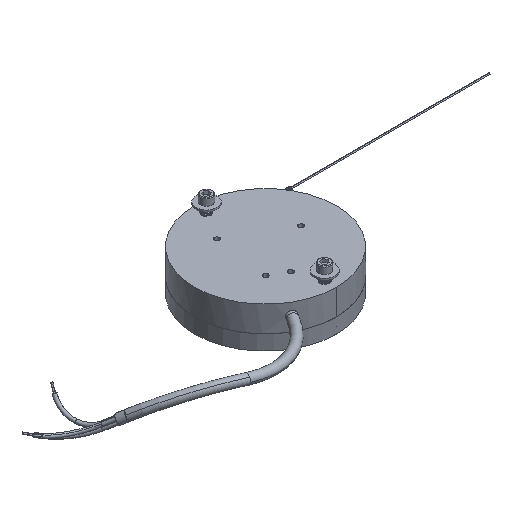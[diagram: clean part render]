
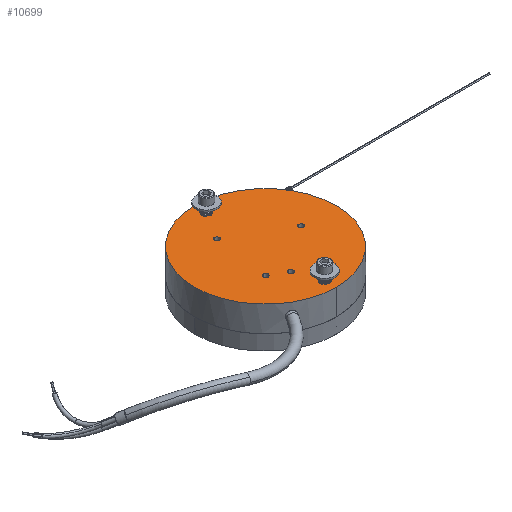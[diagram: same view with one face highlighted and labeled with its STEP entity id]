
A CAD part, isometric view. The second image highlights one B-rep face of the part: STEP entity #10699.
In plain terms, the highlighted planar face has unit normal (0, 0, -1).
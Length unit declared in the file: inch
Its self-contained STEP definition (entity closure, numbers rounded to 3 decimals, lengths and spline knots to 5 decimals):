
#79 = AXIS2_PLACEMENT_3D ( 'NONE', #2762, #2747, #2744 ) ;
#712 = VERTEX_POINT ( 'NONE', #2943 ) ;
#788 = CARTESIAN_POINT ( 'NONE',  ( 0., -0.65615, 0.31 ) ) ;
#843 = CIRCLE ( 'NONE', #1347, 0.05585 ) ;
#919 = AXIS2_PLACEMENT_3D ( 'NONE', #1090, #1087, #1061 ) ;
#922 = AXIS2_PLACEMENT_3D ( 'NONE', #1159, #1137, #1121 ) ;
#988 = AXIS2_PLACEMENT_3D ( 'NONE', #1937, #1927, #1888 ) ;
#995 = DIRECTION ( 'NONE',  ( 0., -1., 0. ) ) ;
#1006 = DIRECTION ( 'NONE',  ( 0., 0., 1. ) ) ;
#1011 = CIRCLE ( 'NONE', #4380, 0.05585 ) ;
#1020 = CARTESIAN_POINT ( 'NONE',  ( 0., -0.712, 0.31 ) ) ;
#1048 = DIRECTION ( 'NONE',  ( 0., 1., 0. ) ) ;
#1061 = DIRECTION ( 'NONE',  ( 0., 1., 0. ) ) ;
#1087 = DIRECTION ( 'NONE',  ( 0., 0., 1. ) ) ;
#1090 = CARTESIAN_POINT ( 'NONE',  ( -0.214, 0.371, 0.31 ) ) ;
#1121 = DIRECTION ( 'NONE',  ( 0., 1., 0. ) ) ;
#1137 = DIRECTION ( 'NONE',  ( 0., 0., 1. ) ) ;
#1159 = CARTESIAN_POINT ( 'NONE',  ( 0.428, 0., 0.31 ) ) ;
#1213 = ORIENTED_EDGE ( 'NONE', *, *, #6685, .T. ) ;
#1347 = AXIS2_PLACEMENT_3D ( 'NONE', #12795, #12775, #12685 ) ;
#1355 = CARTESIAN_POINT ( 'NONE',  ( -0.214, 0.371, 0.31 ) ) ;
#1601 = CARTESIAN_POINT ( 'NONE',  ( -0.111, -0.383, 0.31 ) ) ;
#1814 = EDGE_LOOP ( 'NONE', ( #8406, #3586 ) ) ;
#1888 = DIRECTION ( 'NONE',  ( 0., 1., 0. ) ) ;
#1927 = DIRECTION ( 'NONE',  ( 0., 0., -1. ) ) ;
#1937 = CARTESIAN_POINT ( 'NONE',  ( 0., 0., 0.31 ) ) ;
#2079 = CIRCLE ( 'NONE', #11310, 0.8525 ) ;
#2116 = ORIENTED_EDGE ( 'NONE', *, *, #14583, .T. ) ;
#2199 = CARTESIAN_POINT ( 'NONE',  ( -0.214, 0.401, 0.31 ) ) ;
#2239 = AXIS2_PLACEMENT_3D ( 'NONE', #1020, #1006, #995 ) ;
#2500 = ORIENTED_EDGE ( 'NONE', *, *, #8502, .T. ) ;
#2675 = VERTEX_POINT ( 'NONE', #10109 ) ;
#2705 = CIRCLE ( 'NONE', #12116, 0.03 ) ;
#2744 = DIRECTION ( 'NONE',  ( 0., 1., 0. ) ) ;
#2747 = DIRECTION ( 'NONE',  ( 0., 0., 1. ) ) ;
#2762 = CARTESIAN_POINT ( 'NONE',  ( 0.428, 0., 0.31 ) ) ;
#2876 = AXIS2_PLACEMENT_3D ( 'NONE', #1355, #6626, #1048 ) ;
#2943 = CARTESIAN_POINT ( 'NONE',  ( -0.302, -0.272, 0.31 ) ) ;
#3145 = EDGE_CURVE ( 'NONE', #13968, #12943, #9449, .T. ) ;
#3300 = VERTEX_POINT ( 'NONE', #15258 ) ;
#3372 = VERTEX_POINT ( 'NONE', #8351 ) ;
#3418 = CARTESIAN_POINT ( 'NONE',  ( -0.111, -0.443, 0.31 ) ) ;
#3586 = ORIENTED_EDGE ( 'NONE', *, *, #6535, .T. ) ;
#4009 = EDGE_LOOP ( 'NONE', ( #1213, #15017 ) ) ;
#4122 = DIRECTION ( 'NONE',  ( 0., 1., 0. ) ) ;
#4128 = VERTEX_POINT ( 'NONE', #7705 ) ;
#4144 = DIRECTION ( 'NONE',  ( 0., 0., -1. ) ) ;
#4145 = CARTESIAN_POINT ( 'NONE',  ( 0., 0., 0.31 ) ) ;
#4380 = AXIS2_PLACEMENT_3D ( 'NONE', #8223, #8182, #8110 ) ;
#5052 = ORIENTED_EDGE ( 'NONE', *, *, #8447, .T. ) ;
#5356 = CIRCLE ( 'NONE', #14653, 0.03 ) ;
#5534 = DIRECTION ( 'NONE',  ( 0., 1., 0. ) ) ;
#5563 = DIRECTION ( 'NONE',  ( 0., 0., 1. ) ) ;
#5579 = CARTESIAN_POINT ( 'NONE',  ( -0.302, -0.302, 0.31 ) ) ;
#6260 = EDGE_CURVE ( 'NONE', #4128, #16314, #843, .T. ) ;
#6464 = EDGE_LOOP ( 'NONE', ( #5052, #14962 ) ) ;
#6483 = EDGE_CURVE ( 'NONE', #8605, #11004, #2079, .T. ) ;
#6535 = EDGE_CURVE ( 'NONE', #3372, #8996, #7494, .T. ) ;
#6607 = EDGE_CURVE ( 'NONE', #11004, #8605, #7329, .T. ) ;
#6626 = DIRECTION ( 'NONE',  ( 0., 0., 1. ) ) ;
#6683 = EDGE_CURVE ( 'NONE', #8996, #3372, #13831, .T. ) ;
#6685 = EDGE_CURVE ( 'NONE', #12943, #13968, #13329, .T. ) ;
#6703 = EDGE_CURVE ( 'NONE', #10510, #2675, #6752, .T. ) ;
#6752 = CIRCLE ( 'NONE', #2239, 0.05585 ) ;
#6955 = DIRECTION ( 'NONE',  ( 0., 1., 0. ) ) ;
#6984 = EDGE_LOOP ( 'NONE', ( #2500, #11705 ) ) ;
#7009 = DIRECTION ( 'NONE',  ( 0., 0., 1. ) ) ;
#7072 = CARTESIAN_POINT ( 'NONE',  ( -0.111, -0.413, 0.31 ) ) ;
#7304 = FACE_BOUND ( 'NONE', #4009, .T. ) ;
#7323 = ORIENTED_EDGE ( 'NONE', *, *, #6483, .T. ) ;
#7329 = CIRCLE ( 'NONE', #988, 0.8525 ) ;
#7366 = CARTESIAN_POINT ( 'NONE',  ( 0., 0.8525, 0.31 ) ) ;
#7494 = CIRCLE ( 'NONE', #79, 0.03 ) ;
#7557 = FACE_OUTER_BOUND ( 'NONE', #10039, .T. ) ;
#7705 = CARTESIAN_POINT ( 'NONE',  ( 0., 0.65615, 0.31 ) ) ;
#7719 = AXIS2_PLACEMENT_3D ( 'NONE', #14435, #14422, #14418 ) ;
#8110 = DIRECTION ( 'NONE',  ( 0., -1., 0. ) ) ;
#8182 = DIRECTION ( 'NONE',  ( 0., 0., 1. ) ) ;
#8223 = CARTESIAN_POINT ( 'NONE',  ( 0., 0.712, 0.31 ) ) ;
#8351 = CARTESIAN_POINT ( 'NONE',  ( 0.428, -0.03, 0.31 ) ) ;
#8406 = ORIENTED_EDGE ( 'NONE', *, *, #6683, .T. ) ;
#8447 = EDGE_CURVE ( 'NONE', #15530, #15420, #5356, .T. ) ;
#8451 = EDGE_CURVE ( 'NONE', #712, #3300, #9863, .T. ) ;
#8502 = EDGE_CURVE ( 'NONE', #2675, #10510, #11835, .T. ) ;
#8605 = VERTEX_POINT ( 'NONE', #7366 ) ;
#8688 = EDGE_CURVE ( 'NONE', #3300, #712, #10333, .T. ) ;
#8996 = VERTEX_POINT ( 'NONE', #11589 ) ;
#9274 = EDGE_CURVE ( 'NONE', #15420, #15530, #2705, .T. ) ;
#9424 = ORIENTED_EDGE ( 'NONE', *, *, #8688, .T. ) ;
#9449 = CIRCLE ( 'NONE', #2876, 0.03 ) ;
#9723 = DIRECTION ( 'NONE',  ( 0., -1., 0. ) ) ;
#9771 = DIRECTION ( 'NONE',  ( 0., 0., 1. ) ) ;
#9794 = CARTESIAN_POINT ( 'NONE',  ( 0., -0.712, 0.31 ) ) ;
#9863 = CIRCLE ( 'NONE', #14608, 0.03 ) ;
#10039 = EDGE_LOOP ( 'NONE', ( #7323, #10989 ) ) ;
#10109 = CARTESIAN_POINT ( 'NONE',  ( 0., -0.76785, 0.31 ) ) ;
#10333 = CIRCLE ( 'NONE', #13822, 0.03 ) ;
#10510 = VERTEX_POINT ( 'NONE', #788 ) ;
#10699 = ADVANCED_FACE ( 'NONE', ( #7557, #15608, #13735, #13759, #7304, #14762, #14815 ), #14593, .T. ) ;
#10729 = DIRECTION ( 'NONE',  ( 0., 1., 0. ) ) ;
#10746 = DIRECTION ( 'NONE',  ( 0., 0., 1. ) ) ;
#10770 = CARTESIAN_POINT ( 'NONE',  ( -0.302, -0.302, 0.31 ) ) ;
#10838 = DIRECTION ( 'NONE',  ( 0., 1., 0. ) ) ;
#10871 = EDGE_LOOP ( 'NONE', ( #14838, #9424 ) ) ;
#10873 = DIRECTION ( 'NONE',  ( 0., 0., 1. ) ) ;
#10894 = CARTESIAN_POINT ( 'NONE',  ( -0.111, -0.413, 0.31 ) ) ;
#10989 = ORIENTED_EDGE ( 'NONE', *, *, #6607, .T. ) ;
#11004 = VERTEX_POINT ( 'NONE', #14175 ) ;
#11276 = EDGE_LOOP ( 'NONE', ( #15726, #2116 ) ) ;
#11310 = AXIS2_PLACEMENT_3D ( 'NONE', #4145, #4144, #4122 ) ;
#11589 = CARTESIAN_POINT ( 'NONE',  ( 0.428, 0.03, 0.31 ) ) ;
#11705 = ORIENTED_EDGE ( 'NONE', *, *, #6703, .T. ) ;
#11835 = CIRCLE ( 'NONE', #14605, 0.05585 ) ;
#12116 = AXIS2_PLACEMENT_3D ( 'NONE', #7072, #7009, #6955 ) ;
#12685 = DIRECTION ( 'NONE',  ( 0., -1., 0. ) ) ;
#12775 = DIRECTION ( 'NONE',  ( 0., 0., 1. ) ) ;
#12795 = CARTESIAN_POINT ( 'NONE',  ( 0., 0.712, 0.31 ) ) ;
#12943 = VERTEX_POINT ( 'NONE', #2199 ) ;
#13329 = CIRCLE ( 'NONE', #919, 0.03 ) ;
#13382 = CARTESIAN_POINT ( 'NONE',  ( 0., 0.76785, 0.31 ) ) ;
#13735 = FACE_BOUND ( 'NONE', #6464, .T. ) ;
#13737 = CARTESIAN_POINT ( 'NONE',  ( -0.214, 0.341, 0.31 ) ) ;
#13759 = FACE_BOUND ( 'NONE', #10871, .T. ) ;
#13822 = AXIS2_PLACEMENT_3D ( 'NONE', #5579, #5563, #5534 ) ;
#13831 = CIRCLE ( 'NONE', #922, 0.03 ) ;
#13968 = VERTEX_POINT ( 'NONE', #13737 ) ;
#14175 = CARTESIAN_POINT ( 'NONE',  ( 0., -0.8525, 0.31 ) ) ;
#14418 = DIRECTION ( 'NONE',  ( 0., 1., 0. ) ) ;
#14422 = DIRECTION ( 'NONE',  ( 0., 0., -1. ) ) ;
#14435 = CARTESIAN_POINT ( 'NONE',  ( 0.8525, 0., 0.31 ) ) ;
#14583 = EDGE_CURVE ( 'NONE', #16314, #4128, #1011, .T. ) ;
#14593 = PLANE ( 'NONE',  #7719 ) ;
#14605 = AXIS2_PLACEMENT_3D ( 'NONE', #9794, #9771, #9723 ) ;
#14608 = AXIS2_PLACEMENT_3D ( 'NONE', #10770, #10746, #10729 ) ;
#14653 = AXIS2_PLACEMENT_3D ( 'NONE', #10894, #10873, #10838 ) ;
#14762 = FACE_BOUND ( 'NONE', #6984, .T. ) ;
#14815 = FACE_BOUND ( 'NONE', #11276, .T. ) ;
#14838 = ORIENTED_EDGE ( 'NONE', *, *, #8451, .T. ) ;
#14962 = ORIENTED_EDGE ( 'NONE', *, *, #9274, .T. ) ;
#15017 = ORIENTED_EDGE ( 'NONE', *, *, #3145, .T. ) ;
#15258 = CARTESIAN_POINT ( 'NONE',  ( -0.302, -0.332, 0.31 ) ) ;
#15420 = VERTEX_POINT ( 'NONE', #3418 ) ;
#15530 = VERTEX_POINT ( 'NONE', #1601 ) ;
#15608 = FACE_BOUND ( 'NONE', #1814, .T. ) ;
#15726 = ORIENTED_EDGE ( 'NONE', *, *, #6260, .T. ) ;
#16314 = VERTEX_POINT ( 'NONE', #13382 ) ;
